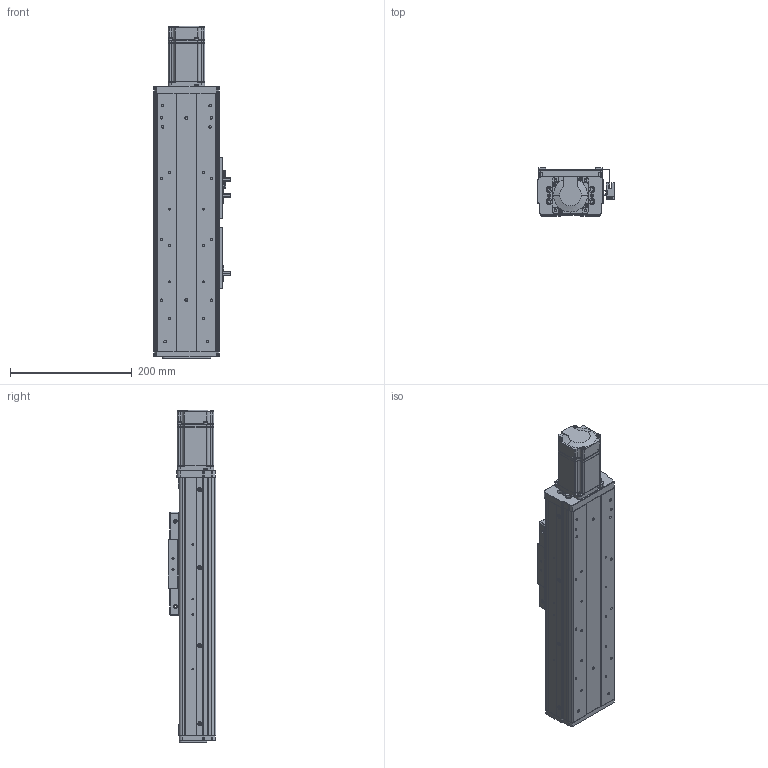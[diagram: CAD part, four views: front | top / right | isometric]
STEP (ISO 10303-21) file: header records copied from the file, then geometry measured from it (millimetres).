
FILE_DESCRIPTION (( 'STEP AP203' ), '1' );
FILE_NAME ('RY100FS-300-MK(15双轨).SLDASM_150.step', '2021-03-02T05:50:35', ( '盈信电脑' ), ( '东莞市道滘镇水果街19号' ), 'SwSTEP 2.0', 'SolidWorks 2012', '' );
FILE_SCHEMA (( 'CONFIG_CONTROL_DESIGN' ));
Length unit declared in the file: millimetre
Products named in the file (20): RY100FS-300-MK(15邧寢).SLDASM_150; 滅袉蝶14-35; RY100FS-双轨螺母座(16丝杆）; 滅袉蝶14-24; RY100FS-15絳寢萇儂假蚾啣(200W PCD70 M4); RY80俋离覜茼え; 覜茼ん672; 672嫖萇羲壽假蚾釱; RY100F-詩湍揤踡輸; 1; RY100F-綴裔啣; RY100F-詩湍揤踡謫; 侂狟200W萇儂; 棠沺沭; RY100F-滅鳥裔啣; RY100FS-双轨铝滑块(上板）; RY100F-詩湍幗謫粣; RY100FS-300-MK15邧寢祥凄詩湍_150; RY100FS-300-MK15絳寢倰第奻裔啣_150; RY100FS-300-MK15絳寢倰第菁釱_150
Assembly tree (27 placements, depth 3):
  RY100FS-300-MK(15邧寢).SLDASM_150
    RY100FS-300-MK15絳寢倰第菁釱_150
    RY100FS-300-MK15絳寢倰第奻裔啣_150  x2
    RY100FS-300-MK15邧寢祥凄詩湍_150
    RY100FS-双轨铝滑块(上板）
    RY100F-滅鳥裔啣
    棠沺沭  x2
    RY100F-詩湍幗謫粣
    RY100F-詩湍揤踡謫  x2
    侂狟200W萇儂
      1
    RY100F-綴裔啣
    672嫖萇羲壽假蚾釱  x2
    RY80俋离覜茼え  x2
    覜茼ん672  x3
    RY100F-詩湍揤踡輸  x2
    RY100FS-15絳寢萇儂假蚾啣(200W PCD70 M4)
    RY100FS-双轨螺母座(16丝杆）
    滅袉蝶14-24
    滅袉蝶14-35
Bounding box: 126.2 x 78.5 x 546 mm (x, y, z)
Volume: 1479265.3 mm3; surface area: 548545.1 mm2
Topology: 26 solids, 26 shells, 1918 faces, 5175 edges, 3359 vertices
Faces by surface type: plane 955, cylinder 802, cone 136, bspline 25
Entity records: 53131 total; most frequent: CARTESIAN_POINT 10375, DIRECTION 8540, ORIENTED_EDGE 8330, EDGE_CURVE 4165, AXIS2_PLACEMENT_3D 2986, VERTEX_POINT 2739, LINE 2568, VECTOR 2568
